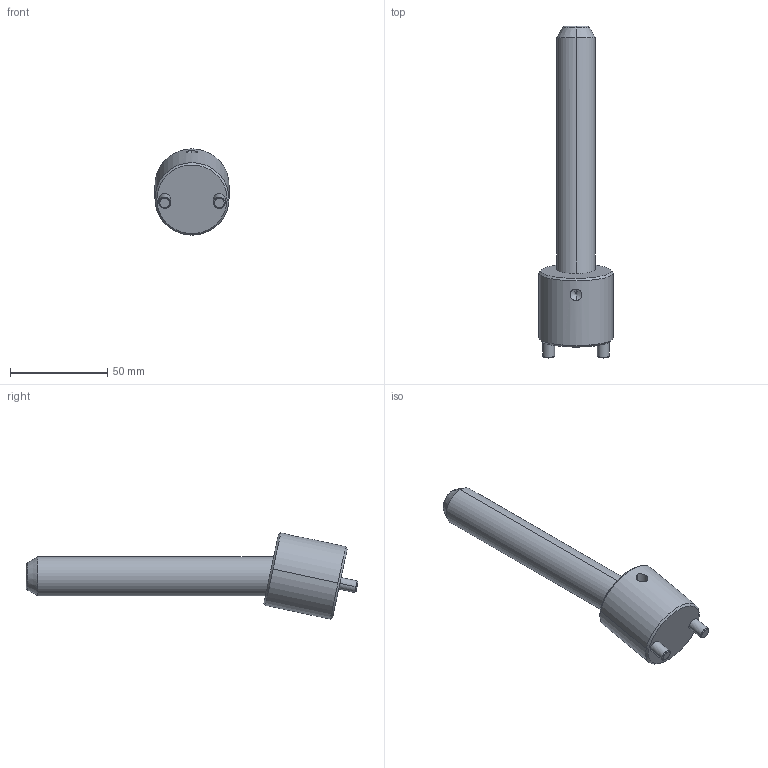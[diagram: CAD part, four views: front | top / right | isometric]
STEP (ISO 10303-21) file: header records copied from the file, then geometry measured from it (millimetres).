
FILE_DESCRIPTION(('CATIA V5 STEP Exchange'),'2;1');
FILE_NAME('C:\Users\Raffaele\Desktop\3D BOLEX\3D FILES CF BOLEX\19-INCLINED ASSEMBLY REF_CI\CI1220125.stp','2019-06-21T14:05:59+00:00',('none'),('none'),'CATIA Version 5 Release 20 GA (IN-10)','CATIA V5 STEP AP203','none');
FILE_SCHEMA(('CONFIG_CONTROL_DESIGN'));
Length unit declared in the file: millimetre
Products named in the file (1): CI1220125
Assembly tree (2 placements, depth 2):
  CI1220125
    #58
    #575
Bounding box: 38 x 170.37 x 44.24 mm (x, y, z)
Volume: 79373 mm3; surface area: 19016.7 mm2
Topology: 2 solids, 2 shells, 39 faces, 82 edges, 47 vertices
Faces by surface type: cone 14, cylinder 14, plane 7, torus 4
Entity records: 1509 total; most frequent: CARTESIAN_POINT 652, ORIENTED_EDGE 160, DIRECTION 144, EDGE_CURVE 80, AXIS2_PLACEMENT_3D 71, VERTEX_POINT 47, EDGE_LOOP 43, ADVANCED_FACE 39
